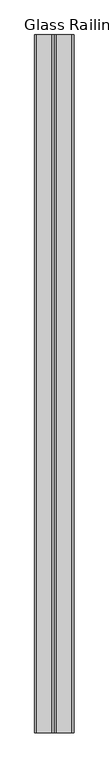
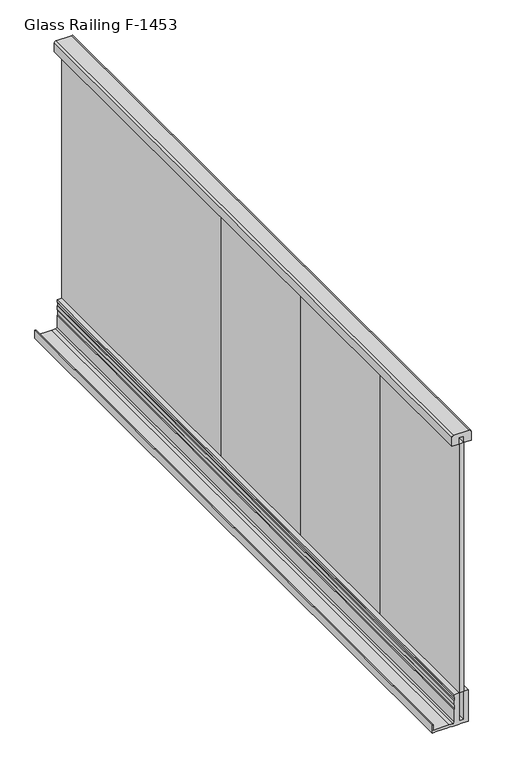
"""IFC4 building model written with IfcOpenShell, lengths in millimetres: railing geometry, Glass Railing F-1453."""

from ifc_helpers import new_model, si_unit, point, frame, frame_2d, origin, place, context, project, spatial, polyline, circle_curve, trimmed, segment, composite_curve, outline, extrude, source, transform, mapped, element, save


def glass_railing_f_1453_b1ccd2aa(model_context):
    return source(origin(), model_context, "Body", "SweptSolid", [
        extrude(outline(polyline([(229.0, 31411.9780024), (199.0, 31411.9780024), (199.0, 31421.1780024), (200.0, 31422.6780024), (200.0, 31439.6780024), (199.0, 31441.1780024), (199.0, 31463.1780024), (200.0, 31464.6780024), (200.0, 31481.6780024), (199.0, 31483.1780024), (199.0, 31510.3765697), (200.0, 31511.8765697), (200.0, 31528.8765697), (199.0, 31530.3765697), (199.0, 31542.3780024), (319.0, 31542.3780024), (319.0, 31526.4220245), (211.914535, 31526.4220245), (211.914535, 31509.6620245), (319.0000003, 31509.6620245), (319.0000003, 31492.3780024), (310.0, 31492.3780024), (307.0, 31494.3780024), (298.0, 31494.3780024), (295.0, 31492.3780024), (280.0, 31492.3780024), (277.0, 31494.3780024), (263.0000003, 31494.3780024), (260.0000003, 31492.3780024), (214.0, 31492.3780024), (209.0021783, 31487.3801807), (209.0021783, 31473.6770429), (209.0021783, 31415.9780024), (229.0, 31415.9780024), (229.0, 31411.9780024)])), frame((0.0, -921.4974864, 0.0), z_axis=(0.0, 1.0, 0.0), x_axis=(0.0, 0.0, 1.0)), (0.0, 0.0, 1.0), 2500.0),
        extrude(outline(composite_curve([segment(trimmed(circle_curve(frame_2d((1307.7073263, 31489.8780024)), 7.0), [point((1314.7073263, 31489.8780024))], [point((1307.7073263, 31482.8780024))], False, "CARTESIAN"), True, "CONTINUOUS"), segment(polyline([(1307.7073263, 31482.8780024), (1274.7073263, 31482.8780024), (1274.7073263, 31508.7038034), (1299.0, 31508.7038034), (1299.0, 31527.0237932), (1274.7073263, 31527.0237932), (1274.7073263, 31552.8780024), (1307.7073263, 31552.8780024)]), True, "CONTINUOUS"), segment(trimmed(circle_curve(frame_2d((1307.7073263, 31545.8780024)), 7.0), [point((1307.7073263, 31552.8780024))], [point((1314.7073263, 31545.8780024))], False, "CARTESIAN"), True, "CONTINUOUS"), segment(polyline([(1314.7073263, 31545.8780024), (1314.7073263, 31489.8780024)]), True, "CONTINUOUS")], self_intersect=False)), frame((0.0, -921.4974864, 0.0), z_axis=(0.0, 1.0, 0.0), x_axis=(0.0, 0.0, 1.0)), (0.0, 0.0, 1.0), 2500.0),
        extrude(outline(polyline([(31509.3780024, 578.5025136), (31509.3780024, 1578.5025136), (31526.8780024, 1578.5025136), (31526.8780024, 578.5025136), (31509.3780024, 578.5025136)])), frame((0.0, 0.0, 319.0000003), z_axis=(0.0, 0.0, 1.0), x_axis=(1.0, 0.0, 0.0)), (0.0, 0.0, 1.0), 955.7073261),
        extrude(outline(polyline([(31509.3780024, 78.5025136), (31509.3780024, 1078.5025136), (31526.8780024, 1078.5025136), (31526.8780024, 78.5025136), (31509.3780024, 78.5025136)])), frame((0.0, 0.0, 319.0000003), z_axis=(0.0, 0.0, 1.0), x_axis=(1.0, 0.0, 0.0)), (0.0, 0.0, 1.0), 955.7073261),
        extrude(outline(polyline([(31509.3780024, -421.4974864), (31509.3780024, 578.5025136), (31526.8780024, 578.5025136), (31526.8780024, -421.4974864), (31509.3780024, -421.4974864)])), frame((0.0, 0.0, 319.0000003), z_axis=(0.0, 0.0, 1.0), x_axis=(1.0, 0.0, 0.0)), (0.0, 0.0, 1.0), 955.7073261),
        extrude(outline(polyline([(31509.3780024, -921.4974864), (31509.3780024, 78.5025136), (31526.8780024, 78.5025136), (31526.8780024, -921.4974864), (31509.3780024, -921.4974864)])), frame((0.0, 0.0, 319.0000003), z_axis=(0.0, 0.0, 1.0), x_axis=(1.0, 0.0, 0.0)), (0.0, 0.0, 1.0), 955.7073261),
    ])


if __name__ == "__main__":
    model = new_model("IFC4")
    model_context = context("Model", 3, world=origin())
    ifc_project = project(units=[si_unit("LENGTHUNIT", "METRE", prefix="MILLI")], contexts=[model_context])
    site = spatial("IfcSite", under=ifc_project)
    building = spatial("IfcBuilding", under=site)
    placement = place(None, origin())
    glass_railing_f_1453_shape = glass_railing_f_1453_b1ccd2aa(model_context)
    element("IfcRailing", 1, ObjectType="Glass Railing F-1453", at=placement, inside=building, context=model_context, shape_type="MappedRepresentation", body=[
        mapped(glass_railing_f_1453_shape, transform((0.0, 0.0, 0.0), x_axis=(1.0, 0.0, 0.0), y_axis=(0.0, 1.0, 0.0), z_axis=(0.0, 0.0, 1.0))),
    ])
    save(model, "model.ifc")
